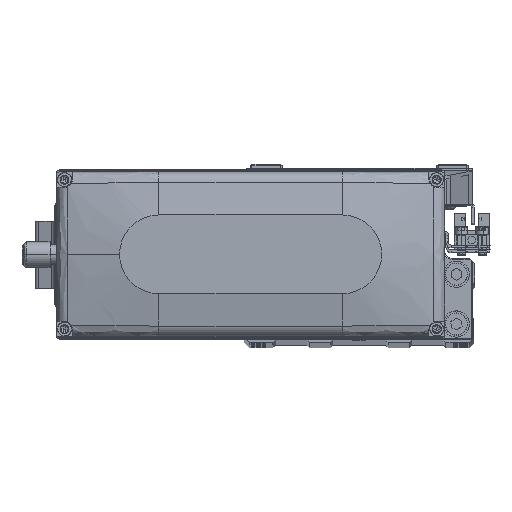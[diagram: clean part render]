
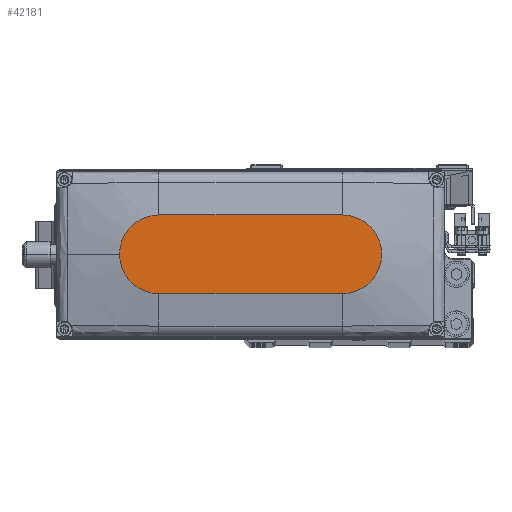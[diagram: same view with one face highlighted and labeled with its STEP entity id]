
A CAD part, top view. The second image highlights one B-rep face of the part: STEP entity #42181.
In plain terms, the highlighted planar face has unit normal (0, 0, 1).
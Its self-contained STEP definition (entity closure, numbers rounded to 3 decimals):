
#12 = EDGE_CURVE ( 'NONE', #5398, #50641, #35598, .T. ) ;
#65 = CARTESIAN_POINT ( 'NONE',  ( -35., 15., 35. ) ) ;
#196 = CARTESIAN_POINT ( 'NONE',  ( 0., 0., 35. ) ) ;
#1771 = EDGE_LOOP ( 'NONE', ( #18548, #44176, #42126, #11878, #10347 ) ) ;
#3764 = CARTESIAN_POINT ( 'NONE',  ( 35., 0., 35. ) ) ;
#3869 = DIRECTION ( 'NONE',  ( 0., 0., 1. ) ) ;
#3949 = VERTEX_POINT ( 'NONE', #17478 ) ;
#5398 = VERTEX_POINT ( 'NONE', #17763 ) ;
#6393 = CIRCLE ( 'NONE', #35368, 15. ) ;
#6665 = AXIS2_PLACEMENT_3D ( 'NONE', #8490, #24279, #40099 ) ;
#6920 = AXIS2_PLACEMENT_3D ( 'NONE', #3764, #19559, #35409 ) ;
#7909 = DIRECTION ( 'NONE',  ( 1., 0., 0. ) ) ;
#8490 = CARTESIAN_POINT ( 'NONE',  ( 35., 0., 35. ) ) ;
#9004 = CARTESIAN_POINT ( 'NONE',  ( 50., 0., 35. ) ) ;
#10347 = ORIENTED_EDGE ( 'NONE', *, *, #16305, .T. ) ;
#10349 = EDGE_CURVE ( 'NONE', #50641, #3949, #6393, .T. ) ;
#11878 = ORIENTED_EDGE ( 'NONE', *, *, #49492, .T. ) ;
#12174 = VERTEX_POINT ( 'NONE', #9004 ) ;
#15873 = DIRECTION ( 'NONE',  ( -1., 0., 0. ) ) ;
#16002 = DIRECTION ( 'NONE',  ( 0., 0., 1. ) ) ;
#16305 = EDGE_CURVE ( 'NONE', #12174, #5398, #29012, .T. ) ;
#17478 = CARTESIAN_POINT ( 'NONE',  ( -35., -15., 35. ) ) ;
#17763 = CARTESIAN_POINT ( 'NONE',  ( 35., 15., 35. ) ) ;
#18548 = ORIENTED_EDGE ( 'NONE', *, *, #12, .T. ) ;
#19559 = DIRECTION ( 'NONE',  ( 0., 0., 1. ) ) ;
#19655 = DIRECTION ( 'NONE',  ( 1., 0., 0. ) ) ;
#19878 = FACE_OUTER_BOUND ( 'NONE', #1771, .T. ) ;
#23685 = VERTEX_POINT ( 'NONE', #36684 ) ;
#24279 = DIRECTION ( 'NONE',  ( 0., 0., 1. ) ) ;
#25251 = EDGE_CURVE ( 'NONE', #3949, #23685, #27606, .T. ) ;
#27606 = LINE ( 'NONE', #43428, #38536 ) ;
#29012 = CIRCLE ( 'NONE', #6665, 15. ) ;
#29266 = CIRCLE ( 'NONE', #6920, 15. ) ;
#30337 = VECTOR ( 'NONE', #15873, 1000. ) ;
#31821 = DIRECTION ( 'NONE',  ( 1., 0., 0. ) ) ;
#34394 = CARTESIAN_POINT ( 'NONE',  ( -35., 15., 35. ) ) ;
#35368 = AXIS2_PLACEMENT_3D ( 'NONE', #39378, #3869, #19655 ) ;
#35409 = DIRECTION ( 'NONE',  ( 1., 0., 0. ) ) ;
#35598 = LINE ( 'NONE', #65, #30337 ) ;
#35725 = PLANE ( 'NONE',  #43715 ) ;
#36684 = CARTESIAN_POINT ( 'NONE',  ( 35., -15., 35. ) ) ;
#38536 = VECTOR ( 'NONE', #7909, 1000. ) ;
#39378 = CARTESIAN_POINT ( 'NONE',  ( -35., 0., 35. ) ) ;
#40099 = DIRECTION ( 'NONE',  ( 1., 0., 0. ) ) ;
#42126 = ORIENTED_EDGE ( 'NONE', *, *, #25251, .T. ) ;
#42181 = ADVANCED_FACE ( 'NONE', ( #19878 ), #35725, .T. ) ;
#43428 = CARTESIAN_POINT ( 'NONE',  ( -35., -15., 35. ) ) ;
#43715 = AXIS2_PLACEMENT_3D ( 'NONE', #196, #16002, #31821 ) ;
#44176 = ORIENTED_EDGE ( 'NONE', *, *, #10349, .T. ) ;
#49492 = EDGE_CURVE ( 'NONE', #23685, #12174, #29266, .T. ) ;
#50641 = VERTEX_POINT ( 'NONE', #34394 ) ;
